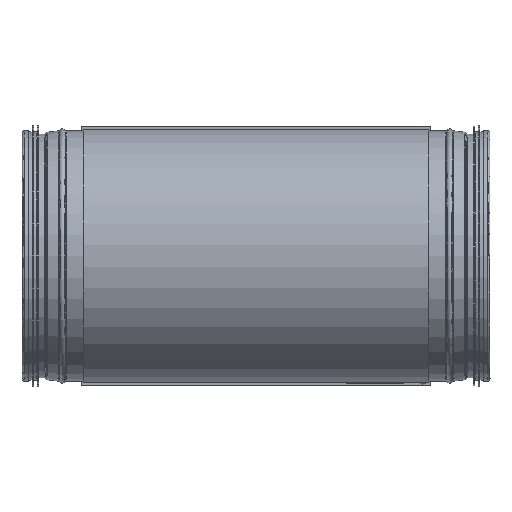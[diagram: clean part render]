
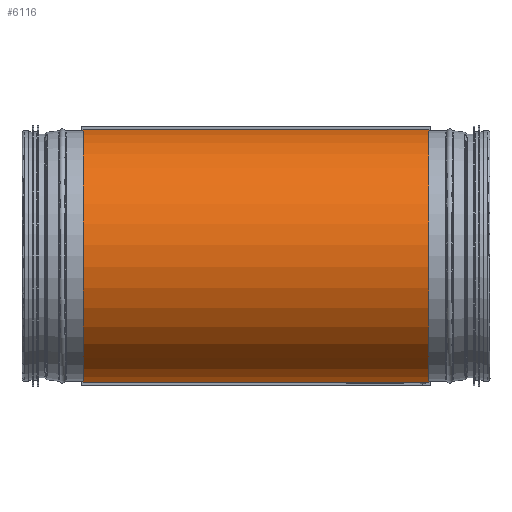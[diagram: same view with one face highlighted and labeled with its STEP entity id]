
A CAD part, front view. The second image highlights one B-rep face of the part: STEP entity #6116.
In plain terms, the highlighted cylindrical face has radius 100.4 mm (diameter 200.8 mm), a partial arc.
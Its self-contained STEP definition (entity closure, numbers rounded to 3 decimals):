
#319=CYLINDRICAL_SURFACE('',#6747,100.4);
#338=LINE('',#8532,#668);
#644=LINE('',#12616,#974);
#668=VECTOR('',#6998,10.);
#974=VECTOR('',#8286,10.);
#1628=FACE_OUTER_BOUND('',#2094,.T.);
#2094=EDGE_LOOP('',(#5378,#5379,#5380,#5381));
#2111=CIRCLE('',#6155,100.4);
#2124=CIRCLE('',#6173,100.4);
#2434=VERTEX_POINT('',#8353);
#2435=VERTEX_POINT('',#8355);
#2452=VERTEX_POINT('',#8397);
#2453=VERTEX_POINT('',#8399);
#3010=EDGE_CURVE('',#2434,#2435,#2111,.T.);
#3031=EDGE_CURVE('',#2453,#2452,#2124,.T.);
#3080=EDGE_CURVE('',#2435,#2452,#338,.T.);
#3786=EDGE_CURVE('',#2453,#2434,#644,.T.);
#5378=ORIENTED_EDGE('',*,*,#3080,.F.);
#5379=ORIENTED_EDGE('',*,*,#3010,.F.);
#5380=ORIENTED_EDGE('',*,*,#3786,.F.);
#5381=ORIENTED_EDGE('',*,*,#3031,.T.);
#6116=ADVANCED_FACE('',(#1628),#319,.T.);
#6155=AXIS2_PLACEMENT_3D('',#8356,#6786,#6787);
#6173=AXIS2_PLACEMENT_3D('',#8400,#6830,#6831);
#6747=AXIS2_PLACEMENT_3D('',#12623,#8292,#8293);
#6786=DIRECTION('center_axis',(-1.,0.,0.));
#6787=DIRECTION('ref_axis',(0.,0.,1.));
#6830=DIRECTION('center_axis',(-1.,0.,0.));
#6831=DIRECTION('ref_axis',(0.,0.,1.));
#6998=DIRECTION('',(1.,0.,0.));
#8286=DIRECTION('',(-1.,0.,0.));
#8292=DIRECTION('center_axis',(-1.,0.,0.));
#8293=DIRECTION('ref_axis',(0.,0.,1.));
#8353=CARTESIAN_POINT('',(-136.5,-12.919,-99.565));
#8355=CARTESIAN_POINT('',(-136.5,-12.919,99.565));
#8356=CARTESIAN_POINT('Origin',(-136.5,0.,0.));
#8397=CARTESIAN_POINT('',(136.5,-12.919,99.565));
#8399=CARTESIAN_POINT('',(136.5,-12.919,-99.565));
#8400=CARTESIAN_POINT('Origin',(136.5,0.,0.));
#8532=CARTESIAN_POINT('',(0.,-12.919,99.565));
#12616=CARTESIAN_POINT('',(0.,-12.919,-99.565));
#12623=CARTESIAN_POINT('Origin',(0.,0.,0.));
